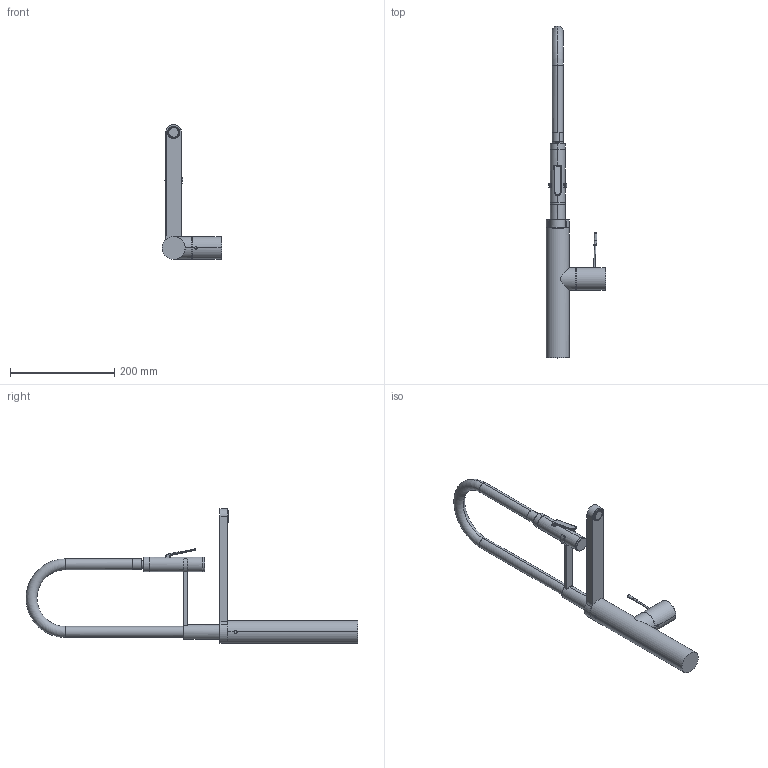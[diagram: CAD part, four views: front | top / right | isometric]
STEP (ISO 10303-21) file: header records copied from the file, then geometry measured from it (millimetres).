
FILE_DESCRIPTION((''),'2;1');
FILE_NAME('10_151_423_XXX','2012-01-05T',('hpf'),(''),'PRO/ENGINEER BY PARAMETRIC TECHNOLOGY CORPORATION, 2011080','PRO/ENGINEER BY PARAMETRIC TECHNOLOGY CORPORATION, 2011080','');
FILE_SCHEMA(('AUTOMOTIVE_DESIGN_CC2 { 1 2 10303 214 -1 1 5 2 }'));
Length unit declared in the file: millimetre
Products named in the file (1): 10_151_423_XXX
Bounding box: 114.45 x 637.82 x 259 mm (x, y, z)
Volume: 939361.5 mm3; surface area: 133941.5 mm2
Topology: 2 solids, 4 shells, 380 faces, 876 edges, 519 vertices
Faces by surface type: cylinder 154, torus 83, plane 68, bspline 47, cone 16, sphere 12
Entity records: 18878 total; most frequent: CARTESIAN_POINT 5973, DIRECTION 1878, ORIENTED_EDGE 1748, EDGE_CURVE 874, AXIS2_PLACEMENT_3D 807, FILL_AREA_STYLE_COLOUR 716, FILL_AREA_STYLE 716, SURFACE_STYLE_FILL_AREA 716
